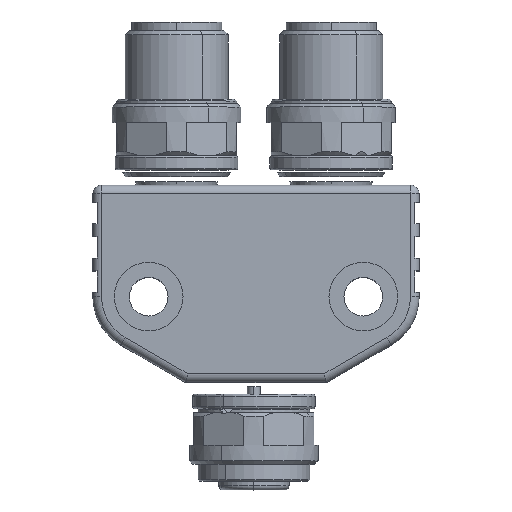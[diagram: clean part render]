
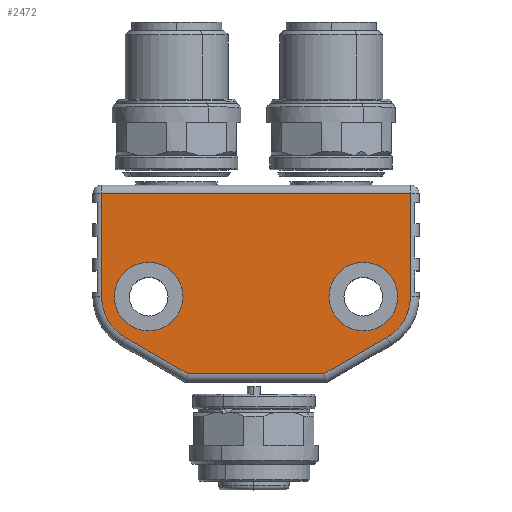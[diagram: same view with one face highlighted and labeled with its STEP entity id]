
A CAD part, top view. The second image highlights one B-rep face of the part: STEP entity #2472.
In plain terms, the highlighted planar face has unit normal (0, 0, 1).
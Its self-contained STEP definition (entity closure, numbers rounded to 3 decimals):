
#73 = VECTOR ( 'NONE', #6868, 1000. ) ;
#89 = CARTESIAN_POINT ( 'NONE',  ( 7.588, -15.9, 4.516 ) ) ;
#125 = ORIENTED_EDGE ( 'NONE', *, *, #704, .T. ) ;
#180 = CARTESIAN_POINT ( 'NONE',  ( 28., -6.9, 4.516 ) ) ;
#277 = DIRECTION ( 'NONE',  ( 0.866, -0.5, 0. ) ) ;
#307 = CARTESIAN_POINT ( 'NONE',  ( 28., -15.9, 4.516 ) ) ;
#416 = EDGE_CURVE ( 'NONE', #11932, #11199, #2387, .T. ) ;
#704 = EDGE_CURVE ( 'NONE', #12566, #11932, #7392, .T. ) ;
#709 = ORIENTED_EDGE ( 'NONE', *, *, #9050, .F. ) ;
#746 = ORIENTED_EDGE ( 'NONE', *, *, #10558, .T. ) ;
#791 = VERTEX_POINT ( 'NONE', #13094 ) ;
#924 = CIRCLE ( 'NONE', #4747, 4. ) ;
#1122 = EDGE_CURVE ( 'NONE', #9978, #9920, #11640, .T. ) ;
#1258 = DIRECTION ( 'NONE',  ( 0., 1., 0. ) ) ;
#1270 = DIRECTION ( 'NONE',  ( 0., 1., 0. ) ) ;
#1351 = VECTOR ( 'NONE', #12614, 1000. ) ;
#1385 = CARTESIAN_POINT ( 'NONE',  ( 0.25, -11.663, 4.516 ) ) ;
#1544 = VECTOR ( 'NONE', #277, 1000. ) ;
#1691 = LINE ( 'NONE', #13776, #1351 ) ;
#1846 = FACE_OUTER_BOUND ( 'NONE', #6967, .T. ) ;
#1847 = DIRECTION ( 'NONE',  ( 0., 0., 1. ) ) ;
#1866 = CARTESIAN_POINT ( 'NONE',  ( 3., -6.9, 4.516 ) ) ;
#1911 = CARTESIAN_POINT ( 'NONE',  ( 28., -6.9, 4.516 ) ) ;
#2387 = LINE ( 'NONE', #307, #5010 ) ;
#2472 = ADVANCED_FACE ( 'NONE', ( #13650, #5471, #1846 ), #2613, .F. ) ;
#2542 = VECTOR ( 'NONE', #13122, 1000. ) ;
#2613 = PLANE ( 'NONE',  #14127 ) ;
#2626 = ORIENTED_EDGE ( 'NONE', *, *, #9380, .T. ) ;
#2806 = ORIENTED_EDGE ( 'NONE', *, *, #11484, .F. ) ;
#2914 = VERTEX_POINT ( 'NONE', #5525 ) ;
#2970 = DIRECTION ( 'NONE',  ( 0., 1., 0. ) ) ;
#3015 = DIRECTION ( 'NONE',  ( 0., -1., 0. ) ) ;
#3183 = DIRECTION ( 'NONE',  ( 0., 0., 1. ) ) ;
#3364 = EDGE_CURVE ( 'NONE', #4662, #11391, #11600, .T. ) ;
#3430 = CARTESIAN_POINT ( 'NONE',  ( 3., -6.9, 4.516 ) ) ;
#4134 = CARTESIAN_POINT ( 'NONE',  ( 28., -10.9, 4.516 ) ) ;
#4269 = LINE ( 'NONE', #14009, #9733 ) ;
#4293 = AXIS2_PLACEMENT_3D ( 'NONE', #1866, #9537, #2970 ) ;
#4539 = CARTESIAN_POINT ( 'NONE',  ( 28., -2.9, 4.516 ) ) ;
#4580 = CARTESIAN_POINT ( 'NONE',  ( 19., -22.488, 4.516 ) ) ;
#4635 = CARTESIAN_POINT ( 'NONE',  ( 23.412, -15.9, 4.516 ) ) ;
#4662 = VERTEX_POINT ( 'NONE', #9887 ) ;
#4690 = ORIENTED_EDGE ( 'NONE', *, *, #12688, .T. ) ;
#4747 = AXIS2_PLACEMENT_3D ( 'NONE', #8458, #1847, #9524 ) ;
#5010 = VECTOR ( 'NONE', #5981, 1000. ) ;
#5021 = ORIENTED_EDGE ( 'NONE', *, *, #12180, .T. ) ;
#5059 = CIRCLE ( 'NONE', #11876, 4. ) ;
#5168 = ORIENTED_EDGE ( 'NONE', *, *, #1122, .T. ) ;
#5239 = VERTEX_POINT ( 'NONE', #4539 ) ;
#5388 = CARTESIAN_POINT ( 'NONE',  ( -2.5, -6.9, 4.516 ) ) ;
#5471 = FACE_BOUND ( 'NONE', #13265, .T. ) ;
#5525 = CARTESIAN_POINT ( 'NONE',  ( 33.5, -6.9, 4.516 ) ) ;
#5538 = VERTEX_POINT ( 'NONE', #4134 ) ;
#5548 = ORIENTED_EDGE ( 'NONE', *, *, #416, .T. ) ;
#5563 = CARTESIAN_POINT ( 'NONE',  ( 3., -6.9, 4.516 ) ) ;
#5981 = DIRECTION ( 'NONE',  ( 1., 0., 0. ) ) ;
#6654 = DIRECTION ( 'NONE',  ( 0., 0., -1. ) ) ;
#6677 = DIRECTION ( 'NONE',  ( 0., -1., 0. ) ) ;
#6868 = DIRECTION ( 'NONE',  ( -1., 0., 0. ) ) ;
#6967 = EDGE_LOOP ( 'NONE', ( #4690, #13291, #5021, #2626, #5168, #746, #125, #5548 ) ) ;
#7142 = CARTESIAN_POINT ( 'NONE',  ( 3., -10.9, 4.516 ) ) ;
#7392 = LINE ( 'NONE', #4580, #1544 ) ;
#7852 = DIRECTION ( 'NONE',  ( 0., 0., 1. ) ) ;
#8274 = CIRCLE ( 'NONE', #4293, 4. ) ;
#8369 = AXIS2_PLACEMENT_3D ( 'NONE', #5563, #13349, #6677 ) ;
#8458 = CARTESIAN_POINT ( 'NONE',  ( 28., -6.9, 4.516 ) ) ;
#8736 = CARTESIAN_POINT ( 'NONE',  ( -2.5, 5.1, 4.516 ) ) ;
#8759 = EDGE_CURVE ( 'NONE', #5239, #5538, #5059, .T. ) ;
#9050 = EDGE_CURVE ( 'NONE', #5538, #5239, #924, .T. ) ;
#9234 = CARTESIAN_POINT ( 'NONE',  ( 33.5, 5.1, 4.516 ) ) ;
#9370 = ORIENTED_EDGE ( 'NONE', *, *, #3364, .F. ) ;
#9380 = EDGE_CURVE ( 'NONE', #10792, #9978, #11690, .T. ) ;
#9415 = DIRECTION ( 'NONE',  ( 0., -1., 0. ) ) ;
#9470 = AXIS2_PLACEMENT_3D ( 'NONE', #1911, #9586, #3015 ) ;
#9524 = DIRECTION ( 'NONE',  ( 0., 1., 0. ) ) ;
#9537 = DIRECTION ( 'NONE',  ( 0., 0., 1. ) ) ;
#9586 = DIRECTION ( 'NONE',  ( 0., 0., 1. ) ) ;
#9733 = VECTOR ( 'NONE', #11729, 1000. ) ;
#9887 = CARTESIAN_POINT ( 'NONE',  ( 3., -2.9, 4.516 ) ) ;
#9920 = VERTEX_POINT ( 'NONE', #5388 ) ;
#9978 = VERTEX_POINT ( 'NONE', #8736 ) ;
#10160 = ORIENTED_EDGE ( 'NONE', *, *, #8759, .F. ) ;
#10558 = EDGE_CURVE ( 'NONE', #9920, #12566, #12586, .T. ) ;
#10586 = CARTESIAN_POINT ( 'NONE',  ( 28., -6.9, 4.516 ) ) ;
#10792 = VERTEX_POINT ( 'NONE', #9234 ) ;
#11199 = VERTEX_POINT ( 'NONE', #4635 ) ;
#11391 = VERTEX_POINT ( 'NONE', #7142 ) ;
#11421 = EDGE_LOOP ( 'NONE', ( #10160, #709 ) ) ;
#11484 = EDGE_CURVE ( 'NONE', #11391, #4662, #8274, .T. ) ;
#11600 = CIRCLE ( 'NONE', #11728, 4. ) ;
#11640 = LINE ( 'NONE', #12789, #2542 ) ;
#11690 = LINE ( 'NONE', #13536, #73 ) ;
#11728 = AXIS2_PLACEMENT_3D ( 'NONE', #3430, #3183, #1270 ) ;
#11729 = DIRECTION ( 'NONE',  ( 0., 1., 0. ) ) ;
#11876 = AXIS2_PLACEMENT_3D ( 'NONE', #180, #7852, #1258 ) ;
#11932 = VERTEX_POINT ( 'NONE', #89 ) ;
#12180 = EDGE_CURVE ( 'NONE', #2914, #10792, #4269, .T. ) ;
#12566 = VERTEX_POINT ( 'NONE', #1385 ) ;
#12586 = CIRCLE ( 'NONE', #8369, 5.5 ) ;
#12614 = DIRECTION ( 'NONE',  ( 0.866, 0.5, 0. ) ) ;
#12688 = EDGE_CURVE ( 'NONE', #11199, #791, #1691, .T. ) ;
#12789 = CARTESIAN_POINT ( 'NONE',  ( -2.5, -6.9, 4.516 ) ) ;
#13094 = CARTESIAN_POINT ( 'NONE',  ( 30.75, -11.663, 4.516 ) ) ;
#13122 = DIRECTION ( 'NONE',  ( 0., -1., 0. ) ) ;
#13265 = EDGE_LOOP ( 'NONE', ( #9370, #2806 ) ) ;
#13291 = ORIENTED_EDGE ( 'NONE', *, *, #13376, .T. ) ;
#13349 = DIRECTION ( 'NONE',  ( 0., 0., 1. ) ) ;
#13376 = EDGE_CURVE ( 'NONE', #791, #2914, #13700, .T. ) ;
#13536 = CARTESIAN_POINT ( 'NONE',  ( 28., 5.1, 4.516 ) ) ;
#13650 = FACE_BOUND ( 'NONE', #11421, .T. ) ;
#13700 = CIRCLE ( 'NONE', #9470, 5.5 ) ;
#13776 = CARTESIAN_POINT ( 'NONE',  ( 30.75, -11.663, 4.516 ) ) ;
#14009 = CARTESIAN_POINT ( 'NONE',  ( 33.5, -6.9, 4.516 ) ) ;
#14127 = AXIS2_PLACEMENT_3D ( 'NONE', #10586, #6654, #9415 ) ;
